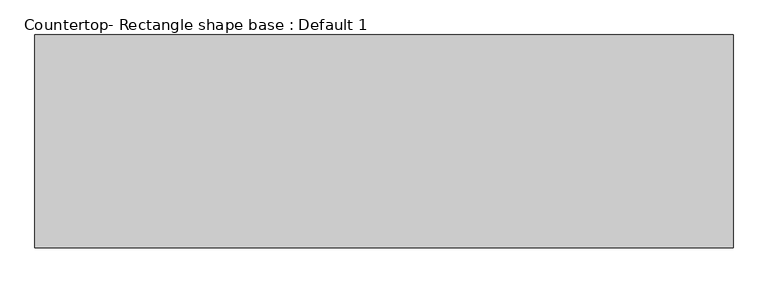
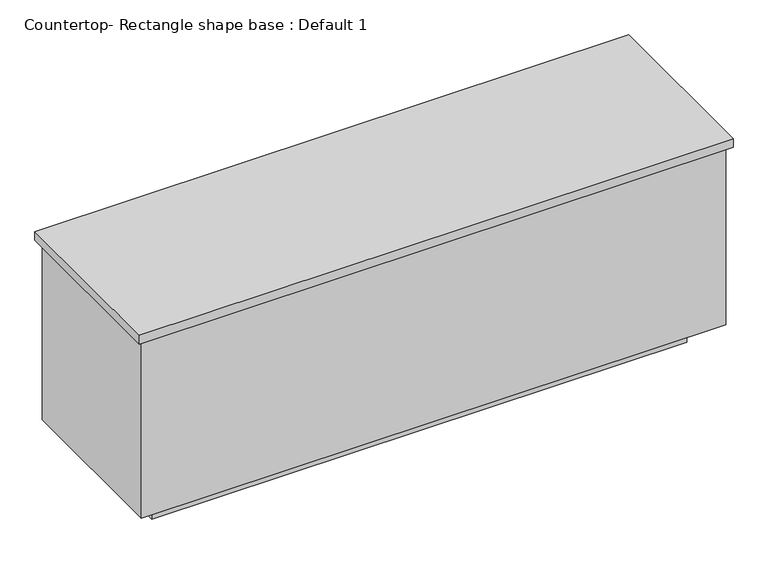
"""IFC4 building model written with IfcOpenShell, lengths in millimetres: proxy geometry, Countertop- Rectangle shape base : Default 1."""

from ifc_helpers import new_model, si_unit, frame, origin, origin_with_axes, place, context, project, spatial, polyline, outline, extrude, source, transform, mapped, element, save


def countertop_rectangle_shape_base_default_1_ae05822e(model_context):
    return source(origin(), model_context, "Body", "SweptSolid", [
        extrude(outline(polyline([(-457.2, 9.525), (-457.2, 752.475), (1981.2, 752.475), (1981.2, 9.525), (-457.2, 9.525)])), frame((0.0, 0.0, 876.3), z_axis=(0.0, 0.0, 1.0), x_axis=(1.0, 0.0, 0.0)), (0.0, 0.0, 1.0), 38.1),
        extrude(outline(polyline([(1962.15, 733.425), (1962.15, 28.575), (-438.15, 28.575), (-438.15, 733.425), (1962.15, 733.425)])), frame((0.0, 0.0, 101.6), z_axis=(0.0, 0.0, 1.0), x_axis=(1.0, 0.0, 0.0)), (0.0, 0.0, 1.0), 774.7),
        extrude(outline(polyline([(1860.55, 631.825), (1860.55, 130.175), (-336.55, 130.175), (-336.55, 631.825), (1860.55, 631.825)])), origin_with_axes(), (0.0, 0.0, 1.0), 101.6),
    ])


if __name__ == "__main__":
    model = new_model("IFC4")
    model_context = context("Model", 3, world=origin())
    ifc_project = project(units=[si_unit("LENGTHUNIT", "METRE", prefix="MILLI")], contexts=[model_context])
    site = spatial("IfcSite", under=ifc_project)
    building = spatial("IfcBuilding", under=site)
    placement = place(None, origin())
    countertop_rectangle_shape_base_default_1_shape = countertop_rectangle_shape_base_default_1_ae05822e(model_context)
    element("IfcBuildingElementProxy", 1, Name="Countertop- Rectangle shape base : Default 1", ObjectType="Countertop- Rectangle shape base : Default 1", at=placement, inside=building, context=model_context, shape_type="MappedRepresentation", body=[
        mapped(countertop_rectangle_shape_base_default_1_shape, transform((0.0, 0.0, 0.0), x_axis=(1.0, 0.0, 0.0), y_axis=(0.0, 1.0, 0.0), z_axis=(0.0, 0.0, 1.0))),
    ])
    save(model, "model.ifc")
